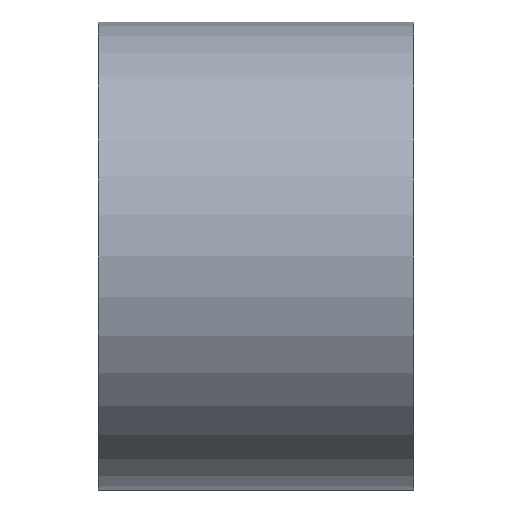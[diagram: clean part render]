
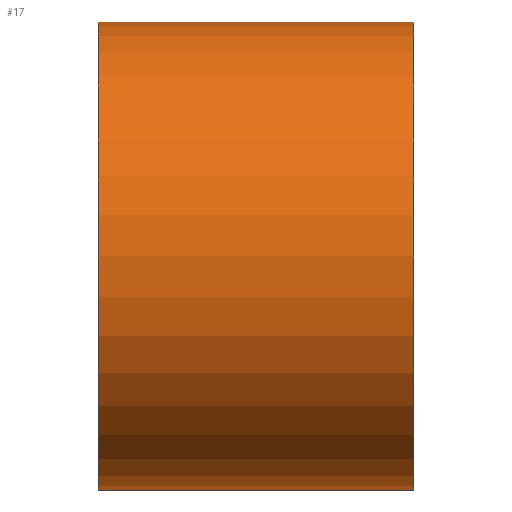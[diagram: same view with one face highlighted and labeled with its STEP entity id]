
A CAD part, front view. The second image highlights one B-rep face of the part: STEP entity #17.
In plain terms, the highlighted cylindrical face has radius 43 mm (diameter 86 mm), a full revolution.
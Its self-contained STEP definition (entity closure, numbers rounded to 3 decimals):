
#17 = ADVANCED_FACE('',(#18),#32,.T.);
#18 = FACE_BOUND('',#19,.F.);
#19 = EDGE_LOOP('',(#20,#50,#77,#78));
#20 = ORIENTED_EDGE('',*,*,#21,.T.);
#21 = EDGE_CURVE('',#22,#24,#26,.T.);
#22 = VERTEX_POINT('',#23);
#23 = CARTESIAN_POINT('',(-29.,43.,0.));
#24 = VERTEX_POINT('',#25);
#25 = CARTESIAN_POINT('',(29.,43.,0.));
#26 = SEAM_CURVE('',#27,(#31,#43),.PCURVE_S1.);
#27 = LINE('',#28,#29);
#28 = CARTESIAN_POINT('',(-29.,43.,0.));
#29 = VECTOR('',#30,1.);
#30 = DIRECTION('',(1.,0.,0.));
#31 = PCURVE('',#32,#37);
#32 = CYLINDRICAL_SURFACE('',#33,43.);
#33 = AXIS2_PLACEMENT_3D('',#34,#35,#36);
#34 = CARTESIAN_POINT('',(-29.,0.,0.));
#35 = DIRECTION('',(-1.,-0.,-0.));
#36 = DIRECTION('',(0.,1.,0.));
#37 = DEFINITIONAL_REPRESENTATION('',(#38),#42);
#38 = LINE('',#39,#40);
#39 = CARTESIAN_POINT('',(-0.,0.));
#40 = VECTOR('',#41,1.);
#41 = DIRECTION('',(-0.,-1.));
#42 = ( GEOMETRIC_REPRESENTATION_CONTEXT(2) 
PARAMETRIC_REPRESENTATION_CONTEXT() REPRESENTATION_CONTEXT('2D SPACE',''
  ) );
#43 = PCURVE('',#32,#44);
#44 = DEFINITIONAL_REPRESENTATION('',(#45),#49);
#45 = LINE('',#46,#47);
#46 = CARTESIAN_POINT('',(-6.283,0.));
#47 = VECTOR('',#48,1.);
#48 = DIRECTION('',(-0.,-1.));
#49 = ( GEOMETRIC_REPRESENTATION_CONTEXT(2) 
PARAMETRIC_REPRESENTATION_CONTEXT() REPRESENTATION_CONTEXT('2D SPACE',''
  ) );
#50 = ORIENTED_EDGE('',*,*,#51,.T.);
#51 = EDGE_CURVE('',#24,#24,#52,.T.);
#52 = SURFACE_CURVE('',#53,(#58,#65),.PCURVE_S1.);
#53 = CIRCLE('',#54,43.);
#54 = AXIS2_PLACEMENT_3D('',#55,#56,#57);
#55 = CARTESIAN_POINT('',(29.,0.,0.));
#56 = DIRECTION('',(1.,0.,0.));
#57 = DIRECTION('',(0.,1.,0.));
#58 = PCURVE('',#32,#59);
#59 = DEFINITIONAL_REPRESENTATION('',(#60),#64);
#60 = LINE('',#61,#62);
#61 = CARTESIAN_POINT('',(-0.,-58.));
#62 = VECTOR('',#63,1.);
#63 = DIRECTION('',(-1.,0.));
#64 = ( GEOMETRIC_REPRESENTATION_CONTEXT(2) 
PARAMETRIC_REPRESENTATION_CONTEXT() REPRESENTATION_CONTEXT('2D SPACE',''
  ) );
#65 = PCURVE('',#66,#71);
#66 = PLANE('',#67);
#67 = AXIS2_PLACEMENT_3D('',#68,#69,#70);
#68 = CARTESIAN_POINT('',(29.,0.,0.));
#69 = DIRECTION('',(1.,0.,0.));
#70 = DIRECTION('',(-0.,0.,1.));
#71 = DEFINITIONAL_REPRESENTATION('',(#72),#76);
#72 = CIRCLE('',#73,43.);
#73 = AXIS2_PLACEMENT_2D('',#74,#75);
#74 = CARTESIAN_POINT('',(0.,0.));
#75 = DIRECTION('',(0.,-1.));
#76 = ( GEOMETRIC_REPRESENTATION_CONTEXT(2) 
PARAMETRIC_REPRESENTATION_CONTEXT() REPRESENTATION_CONTEXT('2D SPACE',''
  ) );
#77 = ORIENTED_EDGE('',*,*,#21,.F.);
#78 = ORIENTED_EDGE('',*,*,#79,.F.);
#79 = EDGE_CURVE('',#22,#22,#80,.T.);
#80 = SURFACE_CURVE('',#81,(#86,#93),.PCURVE_S1.);
#81 = CIRCLE('',#82,43.);
#82 = AXIS2_PLACEMENT_3D('',#83,#84,#85);
#83 = CARTESIAN_POINT('',(-29.,0.,0.));
#84 = DIRECTION('',(1.,0.,0.));
#85 = DIRECTION('',(0.,1.,0.));
#86 = PCURVE('',#32,#87);
#87 = DEFINITIONAL_REPRESENTATION('',(#88),#92);
#88 = LINE('',#89,#90);
#89 = CARTESIAN_POINT('',(-0.,0.));
#90 = VECTOR('',#91,1.);
#91 = DIRECTION('',(-1.,0.));
#92 = ( GEOMETRIC_REPRESENTATION_CONTEXT(2) 
PARAMETRIC_REPRESENTATION_CONTEXT() REPRESENTATION_CONTEXT('2D SPACE',''
  ) );
#93 = PCURVE('',#94,#99);
#94 = PLANE('',#95);
#95 = AXIS2_PLACEMENT_3D('',#96,#97,#98);
#96 = CARTESIAN_POINT('',(-29.,0.,0.));
#97 = DIRECTION('',(1.,0.,0.));
#98 = DIRECTION('',(-0.,0.,1.));
#99 = DEFINITIONAL_REPRESENTATION('',(#100),#104);
#100 = CIRCLE('',#101,43.);
#101 = AXIS2_PLACEMENT_2D('',#102,#103);
#102 = CARTESIAN_POINT('',(0.,0.));
#103 = DIRECTION('',(0.,-1.));
#104 = ( GEOMETRIC_REPRESENTATION_CONTEXT(2) 
PARAMETRIC_REPRESENTATION_CONTEXT() REPRESENTATION_CONTEXT('2D SPACE',''
  ) );
